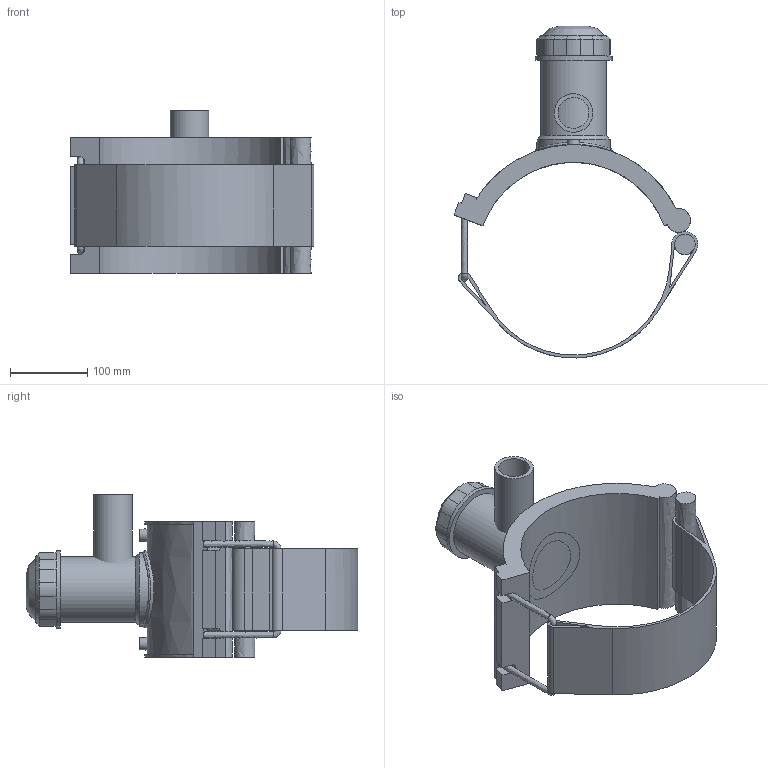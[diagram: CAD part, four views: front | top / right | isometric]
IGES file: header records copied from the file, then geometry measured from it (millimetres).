
Global section: file name: 4963P4250050; native system: Autodesk Inventor 2019; preprocessor: unknown; author: KIM; date: 20220317.113322; units: millimetre
Bounding box: 316.46 x 430.74 x 211 mm (x, y, z)
Volume: 2413482.2 mm3; surface area: 434845.3 mm2
Topology: 3 solids, 3 shells, 118 faces, 297 edges, 193 vertices
Faces by surface type: bspline 118
